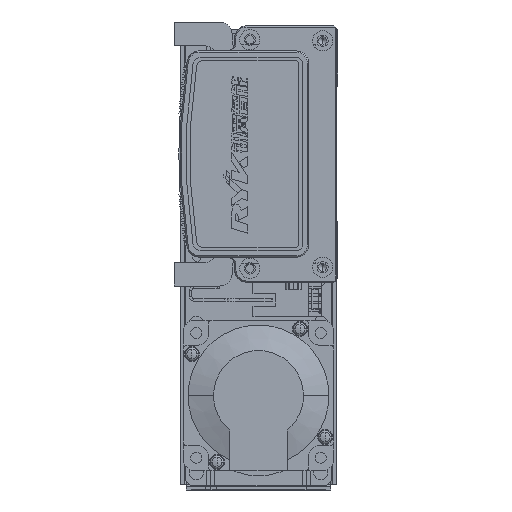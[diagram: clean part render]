
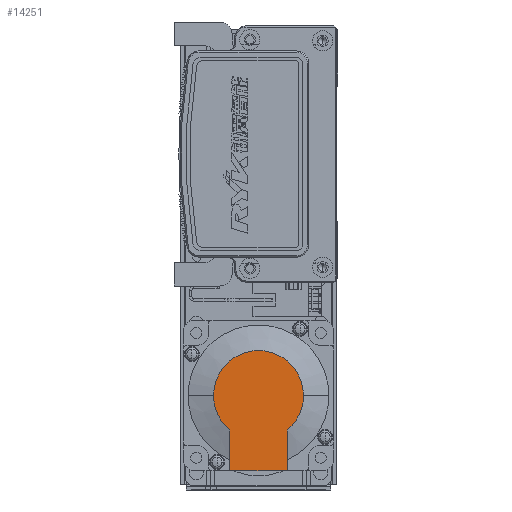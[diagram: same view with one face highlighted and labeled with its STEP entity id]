
A CAD part, left-side view. The second image highlights one B-rep face of the part: STEP entity #14251.
In plain terms, the highlighted planar face has unit normal (-1, 0, 0).
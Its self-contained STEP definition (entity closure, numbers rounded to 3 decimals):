
#3137 = CARTESIAN_POINT ( 'NONE',  ( -99., 13.735, -11.45 ) ) ;
#3198 = CARTESIAN_POINT ( 'NONE',  ( -99., 30., -11.45 ) ) ;
#3390 = CARTESIAN_POINT ( 'NONE',  ( -99., 30., 11.45 ) ) ;
#3606 = EDGE_CURVE ( 'NONE', #54900, #54920, #60379, .T. ) ;
#3803 = EDGE_CURVE ( 'NONE', #54918, #54900, #60480, .T. ) ;
#4771 = EDGE_CURVE ( 'NONE', #78214, #54918, #61046, .T. ) ;
#4879 = EDGE_CURVE ( 'NONE', #78380, #54920, #61104, .T. ) ;
#4908 = EDGE_CURVE ( 'NONE', #78227, #78380, #61071, .T. ) ;
#4924 = EDGE_CURVE ( 'NONE', #78227, #78214, #61118, .T. ) ;
#14251 = ADVANCED_FACE ( 'NONE', ( #20136 ), #22696, .T. ) ;
#17677 = ORIENTED_EDGE ( 'NONE', *, *, #3606, .T. ) ;
#17692 = ORIENTED_EDGE ( 'NONE', *, *, #4879, .F. ) ;
#17743 = ORIENTED_EDGE ( 'NONE', *, *, #4908, .F. ) ;
#17771 = ORIENTED_EDGE ( 'NONE', *, *, #3803, .T. ) ;
#17827 = ORIENTED_EDGE ( 'NONE', *, *, #4771, .T. ) ;
#17849 = ORIENTED_EDGE ( 'NONE', *, *, #4924, .T. ) ;
#20136 = FACE_OUTER_BOUND ( 'NONE', #84235, .T. ) ;
#21200 = AXIS2_PLACEMENT_3D ( 'NONE', #22693, #22679, #22695 ) ;
#22679 = DIRECTION ( 'NONE',  ( -1., 0., 0. ) ) ;
#22693 = CARTESIAN_POINT ( 'NONE',  ( -99., -8.941, 0. ) ) ;
#22695 = DIRECTION ( 'NONE',  ( 0., 0., 1. ) ) ;
#22696 = PLANE ( 'NONE',  #21200 ) ;
#42895 = CARTESIAN_POINT ( 'NONE',  ( -99., 0., 0. ) ) ;
#42918 = DIRECTION ( 'NONE',  ( -1., 0., 0. ) ) ;
#42920 = DIRECTION ( 'NONE',  ( 0., 0., -1. ) ) ;
#43217 = CARTESIAN_POINT ( 'NONE',  ( -99., 0., 0. ) ) ;
#43233 = DIRECTION ( 'NONE',  ( -1., 0., 0. ) ) ;
#43262 = DIRECTION ( 'NONE',  ( 0., 0., -1. ) ) ;
#51799 = AXIS2_PLACEMENT_3D ( 'NONE', #42895, #42918, #42920 ) ;
#51809 = AXIS2_PLACEMENT_3D ( 'NONE', #43217, #43233, #43262 ) ;
#51924 = AXIS2_PLACEMENT_3D ( 'NONE', #61950, #61940, #61946 ) ;
#54900 = VERTEX_POINT ( 'NONE', #66384 ) ;
#54918 = VERTEX_POINT ( 'NONE', #66507 ) ;
#54920 = VERTEX_POINT ( 'NONE', #66569 ) ;
#60379 = CIRCLE ( 'NONE', #51799, 17.881 ) ;
#60480 = CIRCLE ( 'NONE', #51809, 17.881 ) ;
#61046 = CIRCLE ( 'NONE', #51924, 17.881 ) ;
#61071 = LINE ( 'NONE', #62033, #61117 ) ;
#61098 = VECTOR ( 'NONE', #62028, 1000. ) ;
#61100 = VECTOR ( 'NONE', #62060, 1000. ) ;
#61104 = LINE ( 'NONE', #62041, #61098 ) ;
#61117 = VECTOR ( 'NONE', #62025, 1000. ) ;
#61118 = LINE ( 'NONE', #62048, #61100 ) ;
#61940 = DIRECTION ( 'NONE',  ( -1., 0., 0. ) ) ;
#61946 = DIRECTION ( 'NONE',  ( 0., 0., -1. ) ) ;
#61950 = CARTESIAN_POINT ( 'NONE',  ( -99., 0., 0. ) ) ;
#62025 = DIRECTION ( 'NONE',  ( 0., 0., 1. ) ) ;
#62028 = DIRECTION ( 'NONE',  ( 0., -1., 0. ) ) ;
#62033 = CARTESIAN_POINT ( 'NONE',  ( -99., 30., 25. ) ) ;
#62041 = CARTESIAN_POINT ( 'NONE',  ( -99., 0., 11.45 ) ) ;
#62048 = CARTESIAN_POINT ( 'NONE',  ( -99., -8.941, -11.45 ) ) ;
#62060 = DIRECTION ( 'NONE',  ( 0., -1., 0. ) ) ;
#66384 = CARTESIAN_POINT ( 'NONE',  ( -99., 0., 17.881 ) ) ;
#66507 = CARTESIAN_POINT ( 'NONE',  ( -99., 0., -17.881 ) ) ;
#66569 = CARTESIAN_POINT ( 'NONE',  ( -99., 13.735, 11.45 ) ) ;
#78214 = VERTEX_POINT ( 'NONE', #3137 ) ;
#78227 = VERTEX_POINT ( 'NONE', #3198 ) ;
#78380 = VERTEX_POINT ( 'NONE', #3390 ) ;
#84235 = EDGE_LOOP ( 'NONE', ( #17849, #17827, #17771, #17677, #17692, #17743 ) ) ;
